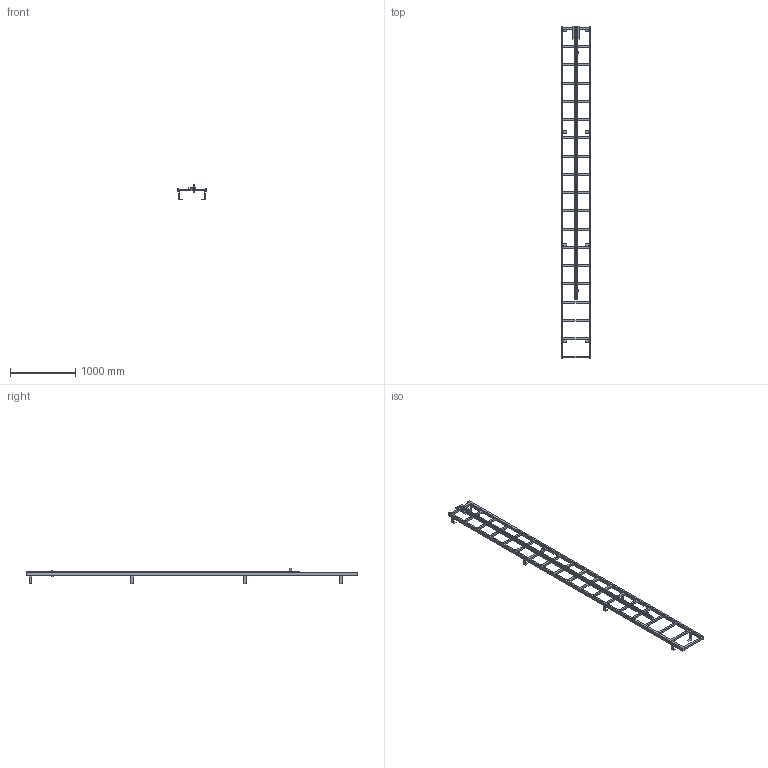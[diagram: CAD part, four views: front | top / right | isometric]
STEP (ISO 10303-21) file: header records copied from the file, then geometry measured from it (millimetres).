
FILE_DESCRIPTION((''),'2;1');
FILE_NAME('52330181','2024-12-05T08:46:55',('wep'),('HUBER SE'),'CREO PARAMETRIC BY PTC INC, 2022162','CREO PARAMETRIC BY PTC INC, 2022162','');
FILE_SCHEMA(('AUTOMOTIVE_DESIGN { 1 0 10303 214 1 1 1 1 }'));
Length unit declared in the file: millimetre
Products named in the file (1): 52330181
Bounding box: 450 x 5090 x 239 mm (x, y, z)
Volume: 22078900 mm3; surface area: 3820181.7 mm2
Topology: 2 solids, 2 shells, 320 faces, 930 edges, 610 vertices
Faces by surface type: plane 320
Entity records: 11061 total; most frequent: CARTESIAN_POINT 1862, ORIENTED_EDGE 1860, DIRECTION 1570, VECTOR 930, LINE 930, EDGE_CURVE 930, VERTEX_POINT 610, EDGE_LOOP 416
